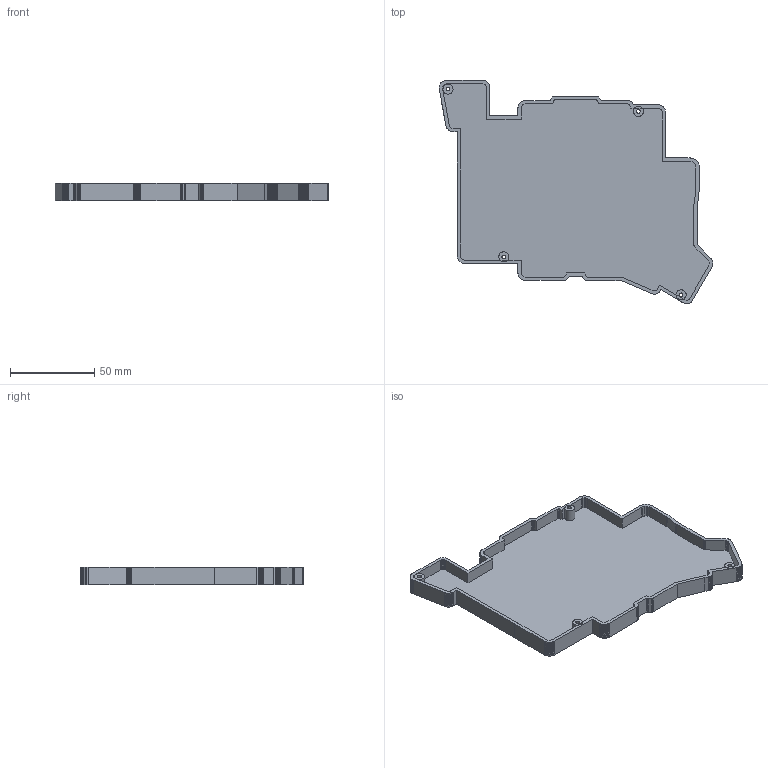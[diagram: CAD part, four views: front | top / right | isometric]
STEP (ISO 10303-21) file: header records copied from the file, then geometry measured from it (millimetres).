
FILE_DESCRIPTION(('Open CASCADE Model'),'2;1');
FILE_NAME('Open CASCADE Shape Model','1979-01-01T00:00:00',('Author'),( 'Open CASCADE'),'Open CASCADE STEP processor 8.0','Open CASCADE 8.0' ,'Unknown');
FILE_SCHEMA(('AUTOMOTIVE_DESIGN { 1 0 10303 214 1 1 1 1 }'));
Length unit declared in the file: millimetre
Products named in the file (1): Open CASCADE STEP translator 8.0 3
Bounding box: 162.51 x 132.49 x 10.1 mm (x, y, z)
Volume: 53711.4 mm3; surface area: 40387.7 mm2
Topology: 1 solids, 1 shells, 519 faces, 1533 edges, 1018 vertices
Faces by surface type: plane 508, cylinder 11
Full cylindrical faces by diameter (mm): 2.2 x4, 6 x1
Entity records: 36899 total; most frequent: CARTESIAN_POINT 6149, DIRECTION 5652, LINE 4534, VECTOR 4534, ORIENTED_EDGE 3066, PCURVE 3066, DEFINITIONAL_REPRESENTATION 3066, EDGE_CURVE 1533
